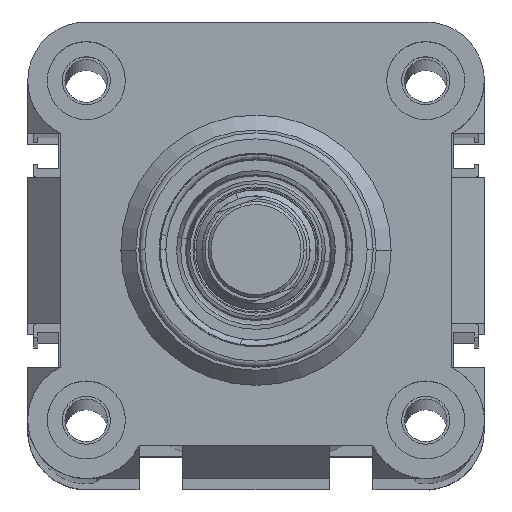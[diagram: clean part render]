
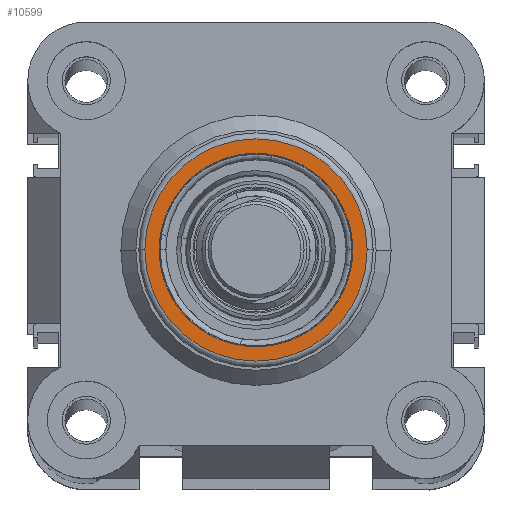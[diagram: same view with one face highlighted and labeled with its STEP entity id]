
A CAD part, top view. The second image highlights one B-rep face of the part: STEP entity #10599.
In plain terms, the highlighted planar face has unit normal (0, 0, 1).
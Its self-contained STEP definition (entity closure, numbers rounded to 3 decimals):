
#963 = AXIS2_PLACEMENT_3D ( 'NONE', #9083, #8942, #7401 ) ;
#1324 = EDGE_LOOP ( 'NONE', ( #13287, #4610 ) ) ;
#1972 = DIRECTION ( 'NONE',  ( 0., 0., 1. ) ) ;
#2007 = VERTEX_POINT ( 'NONE', #12350 ) ;
#2054 = CARTESIAN_POINT ( 'NONE',  ( 22., 38., 62. ) ) ;
#3064 = EDGE_CURVE ( 'NONE', #8655, #11513, #11060, .T. ) ;
#3991 = CARTESIAN_POINT ( 'NONE',  ( 56.5, 38., 62. ) ) ;
#4436 = AXIS2_PLACEMENT_3D ( 'NONE', #20433, #1972, #8789 ) ;
#4610 = ORIENTED_EDGE ( 'NONE', *, *, #3064, .T. ) ;
#4854 = CIRCLE ( 'NONE', #14714, 18.5 ) ;
#5110 = CIRCLE ( 'NONE', #4436, 18.5 ) ;
#6217 = EDGE_CURVE ( 'NONE', #2007, #8730, #5110, .T. ) ;
#6704 = EDGE_CURVE ( 'NONE', #11513, #8655, #16329, .T. ) ;
#7264 = CARTESIAN_POINT ( 'NONE',  ( 38., 38., 62. ) ) ;
#7401 = DIRECTION ( 'NONE',  ( 1., 0., 0. ) ) ;
#8262 = DIRECTION ( 'NONE',  ( 0., 0., 1. ) ) ;
#8655 = VERTEX_POINT ( 'NONE', #2054 ) ;
#8730 = VERTEX_POINT ( 'NONE', #3991 ) ;
#8789 = DIRECTION ( 'NONE',  ( 1., 0., 0. ) ) ;
#8883 = DIRECTION ( 'NONE',  ( 0., 0., 1. ) ) ;
#8942 = DIRECTION ( 'NONE',  ( 0., 0., -1. ) ) ;
#9083 = CARTESIAN_POINT ( 'NONE',  ( 38., 38., 62. ) ) ;
#10156 = CARTESIAN_POINT ( 'NONE',  ( 38., 38., 62. ) ) ;
#10304 = DIRECTION ( 'NONE',  ( 0., 0., -1. ) ) ;
#10437 = DIRECTION ( 'NONE',  ( 1., 0., 0. ) ) ;
#10599 = ADVANCED_FACE ( 'NONE', ( #12754, #16158 ), #18308, .T. ) ;
#10961 = ORIENTED_EDGE ( 'NONE', *, *, #11815, .T. ) ;
#11060 = CIRCLE ( 'NONE', #963, 16. ) ;
#11513 = VERTEX_POINT ( 'NONE', #16285 ) ;
#11815 = EDGE_CURVE ( 'NONE', #8730, #2007, #4854, .T. ) ;
#12246 = DIRECTION ( 'NONE',  ( 1., 0., 0. ) ) ;
#12350 = CARTESIAN_POINT ( 'NONE',  ( 19.5, 38., 62. ) ) ;
#12754 = FACE_BOUND ( 'NONE', #1324, .T. ) ;
#13251 = CARTESIAN_POINT ( 'NONE',  ( 38., 38., 62. ) ) ;
#13287 = ORIENTED_EDGE ( 'NONE', *, *, #6704, .T. ) ;
#14714 = AXIS2_PLACEMENT_3D ( 'NONE', #7264, #8883, #12246 ) ;
#15973 = ORIENTED_EDGE ( 'NONE', *, *, #6217, .T. ) ;
#16158 = FACE_OUTER_BOUND ( 'NONE', #18272, .T. ) ;
#16285 = CARTESIAN_POINT ( 'NONE',  ( 54., 38., 62. ) ) ;
#16329 = CIRCLE ( 'NONE', #19725, 16. ) ;
#18272 = EDGE_LOOP ( 'NONE', ( #10961, #15973 ) ) ;
#18308 = PLANE ( 'NONE',  #19861 ) ;
#19725 = AXIS2_PLACEMENT_3D ( 'NONE', #10156, #10304, #10437 ) ;
#19861 = AXIS2_PLACEMENT_3D ( 'NONE', #13251, #8262, #20124 ) ;
#20124 = DIRECTION ( 'NONE',  ( 1., 0., 0. ) ) ;
#20433 = CARTESIAN_POINT ( 'NONE',  ( 38., 38., 62. ) ) ;
